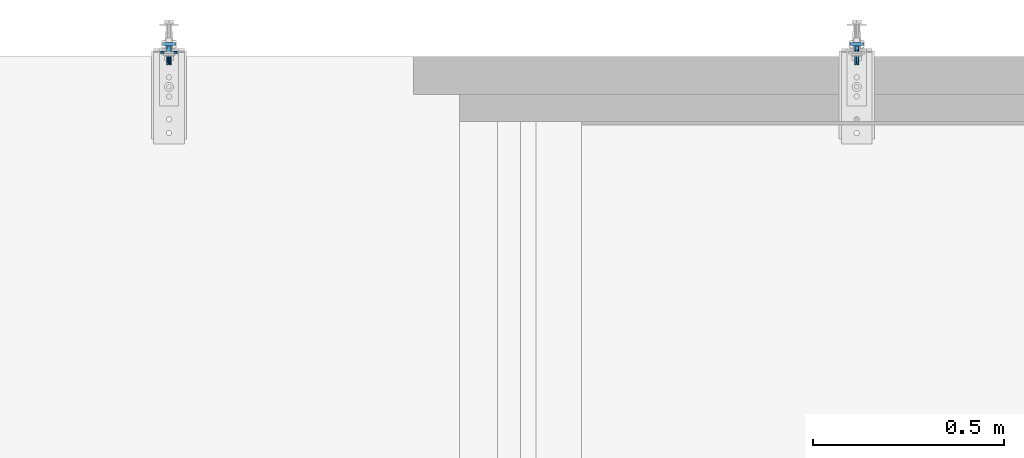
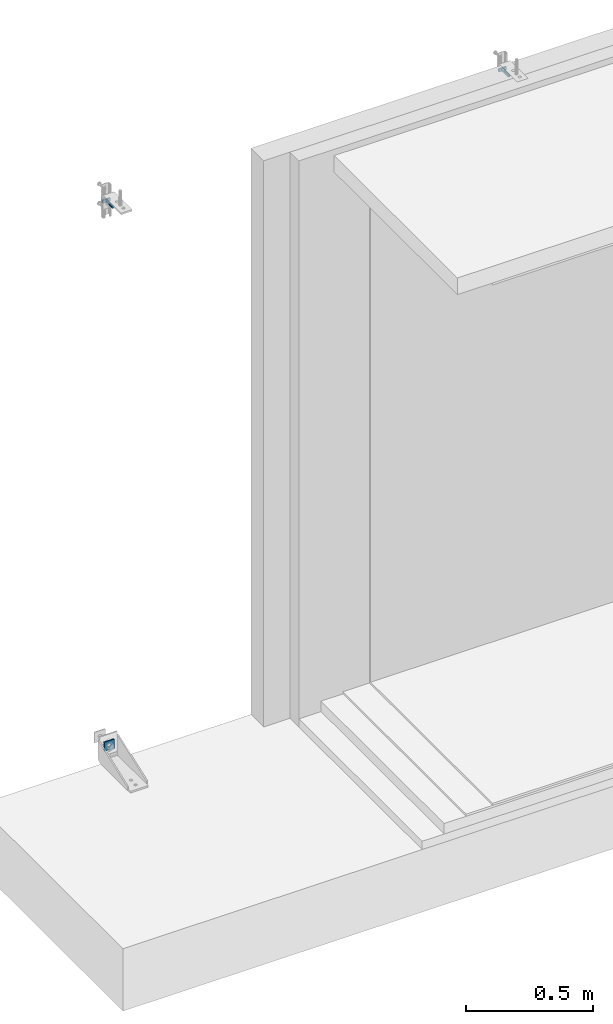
# One storey, part 5 of 7: 3 assemblies.
"""IFC2X3 building model written with IfcOpenShell, lengths in metres."""

from ifc_helpers import new_model, entity, si_unit, converted_unit, derived_unit, direction, frame, origin, place, context, subcontext, project, spatial, faceted_brep, source, transform, mapped, material, type_object, type_shapes, element, save


model = new_model("IFC2X3")

# Units and contexts
model_context = context("Model", 3, precision=1e-05, world=origin(), true_north=direction((6.123031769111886e-17, 1.0)))
body_context = subcontext(model_context, "Body", "Model", "MODEL_VIEW")
ifc_project = project(units=[si_unit("LENGTHUNIT", "METRE"), si_unit("AREAUNIT", "SQUARE_METRE"), converted_unit("PLANEANGLEUNIT", "DEGREE", entity("IfcPlaneAngleMeasure", 0.017453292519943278), si_unit("PLANEANGLEUNIT", "RADIAN"), dimensions=[0, 0, 0, 0, 0, 0, 0]), si_unit("VOLUMEUNIT", "CUBIC_METRE"), derived_unit("THERMALTRANSMITTANCEUNIT", [(si_unit("MASSUNIT", "GRAM", prefix="KILO"), 1), (si_unit("THERMODYNAMICTEMPERATUREUNIT", "KELVIN"), -1), (si_unit("TIMEUNIT", "SECOND"), -3)]), derived_unit("USERDEFINED", [(si_unit("MASSUNIT", "GRAM", prefix="KILO"), 1), (si_unit("THERMODYNAMICTEMPERATUREUNIT", "KELVIN"), -1), (si_unit("TIMEUNIT", "SECOND"), -2)]), derived_unit("THERMALRESISTANCEUNIT", [(si_unit("MASSUNIT", "GRAM", prefix="KILO"), -1), (si_unit("TIMEUNIT", "SECOND"), 3), (si_unit("THERMODYNAMICTEMPERATUREUNIT", "KELVIN"), 1)]), derived_unit("MASSDENSITYUNIT", [(si_unit("MASSUNIT", "GRAM", prefix="KILO"), 1), (si_unit("LENGTHUNIT", "METRE"), -3)]), derived_unit("VAPORPERMEABILITYUNIT", [(si_unit("LENGTHUNIT", "METRE"), -1), (si_unit("TIMEUNIT", "SECOND"), 1)]), derived_unit("USERDEFINED", [(si_unit("MASSUNIT", "GRAM", prefix="KILO"), 1), (si_unit("TIMEUNIT", "SECOND"), -3), (si_unit("LENGTHUNIT", "METRE"), 3), (si_unit("ELECTRICCURRENTUNIT", "AMPERE"), -2)]), si_unit("PRESSUREUNIT", "PASCAL")], contexts=[model_context])

# Site, building, storey
site_placement = place(None, origin())
site = spatial("IfcSite", under=ifc_project, at=site_placement, Name="Default", CompositionType="ELEMENT")
building_placement = place(site_placement, origin())
building = spatial("IfcBuilding", under=site, at=building_placement, CompositionType="ELEMENT")
storey_placement = place(building_placement, origin())
storey = spatial("IfcBuildingStorey", under=building, at=storey_placement, Name="L0", CompositionType="ELEMENT", Elevation=0.0)

# Assemblies
ifc_material = material(Name="REC_Acero, S 275JR (Zincado)")
type_product_1 = type_object("IfcTypeProduct", Name="REC-TPH1250:TPH1250", material=ifc_material)
shared_shape_1 = source(origin(), body_context, "Body", "Brep", [
    faceted_brep([(-0.005512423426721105, 0.006999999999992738, 0.04999470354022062), (-0.005512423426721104, 0.006999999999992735, 0.050994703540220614), (-0.017500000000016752, 0.006999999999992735, 0.050994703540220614), (-0.017500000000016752, 0.006999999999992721, 0.05849470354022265), (0.01750000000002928, 0.006999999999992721, 0.05849470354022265), (0.01750000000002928, 0.006999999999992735, 0.0509947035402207), (0.00551242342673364, 0.006999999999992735, 0.0509947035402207), (0.00551242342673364, 0.006999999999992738, 0.04999470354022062), (-0.005512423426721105, -0.007000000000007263, 0.04999470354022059), (0.00551242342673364, -0.007000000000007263, 0.04999470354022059), (0.00551242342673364, -0.007000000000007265, 0.05099470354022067), (0.01750000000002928, -0.007000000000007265, 0.05099470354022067), (0.01750000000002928, -0.007000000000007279, 0.058494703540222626), (-0.017500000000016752, -0.007000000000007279, 0.058494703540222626), (-0.017500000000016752, -0.007000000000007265, 0.050994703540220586), (-0.005512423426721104, -0.007000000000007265, 0.050994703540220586)], [[[0, 1, 2, 3, 4, 5, 6, 7]], [[8, 9, 10, 11, 12, 13, 14, 15]], [[1, 0, 8, 15]], [[3, 2, 14, 13]], [[4, 3, 13, 12]], [[5, 4, 12, 11]], [[6, 5, 11, 10]], [[7, 6, 10, 9]], [[0, 7, 9, 8]], [[2, 1, 15, 14]]]),
    faceted_brep([(0.002796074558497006, -0.002860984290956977, 0.0489420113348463), (-3.2352566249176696e-05, -0.004032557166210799, 0.0489420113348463), (-0.0028607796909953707, -0.002860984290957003, 0.0489420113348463), (-0.004032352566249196, -3.255716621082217e-05, 0.048942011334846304), (-0.0028607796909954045, 0.0027958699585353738, 0.048942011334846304), (-3.235256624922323e-05, 0.0039674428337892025, 0.04894201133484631), (0.0027960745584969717, 0.0027958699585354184, 0.048942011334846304), (0.00396764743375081, -3.2557166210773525e-05, 0.048942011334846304), (0.002796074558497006, -0.002860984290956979, 0.0499947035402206), (0.00396764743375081, -3.255716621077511e-05, 0.04999470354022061), (0.0027960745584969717, 0.0027958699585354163, 0.04999470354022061), (-3.235256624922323e-05, 0.0039674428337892, 0.04999470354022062), (-0.0028607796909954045, 0.0027958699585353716, 0.04999470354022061), (-0.004032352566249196, -3.2557166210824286e-05, 0.04999470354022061), (-0.0028607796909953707, -0.002860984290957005, 0.0499947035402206), (-3.2352566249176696e-05, -0.0040325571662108, 0.0499947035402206)], [[[0, 1, 2, 3, 4, 5, 6, 7]], [[8, 9, 10, 11, 12, 13, 14, 15]], [[1, 0, 8, 15]], [[2, 1, 15, 14]], [[3, 2, 14, 13]], [[4, 3, 13, 12]], [[5, 4, 12, 11]], [[6, 5, 11, 10]], [[7, 6, 10, 9]], [[0, 7, 9, 8]]]),
    faceted_brep([(0.004541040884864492, -0.00392160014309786, 0.0), (0.0008991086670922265, -0.005932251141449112, 0.0), (0.0008991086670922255, 0.00593225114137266, 0.0), (0.004555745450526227, 0.0039045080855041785, 0.0), (0.005999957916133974, -2.2472309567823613e-05, 0.0), (-0.0008991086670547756, -0.005932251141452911, 0.0), (-0.004556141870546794, -0.00390404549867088, 0.0), (-0.005999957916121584, 2.2472309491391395e-05, 0.0), (-0.004541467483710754, 0.0039211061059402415, 0.0), (-0.0008991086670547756, 0.005932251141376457, 0.0), (2.2472309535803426e-05, 0.0059999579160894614, 0.04894201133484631), (-0.0015311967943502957, 0.005801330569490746, 0.04894201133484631), (-0.002980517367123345, 0.005207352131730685, 0.04894201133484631), (-0.004226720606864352, 0.004258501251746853, 0.04894201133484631), (-0.005184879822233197, 0.0030194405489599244, 0.04894201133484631), (-0.005789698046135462, 0.0015746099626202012, 0.048942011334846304), (-0.005999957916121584, 2.247230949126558e-05, 0.048942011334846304), (-0.005801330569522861, -0.0015311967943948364, 0.048942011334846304), (-0.005207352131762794, -0.0029805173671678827, 0.0489420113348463), (-0.004258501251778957, -0.004226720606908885, 0.0489420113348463), (-0.003019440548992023, -0.005184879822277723, 0.0489420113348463), (-0.001574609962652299, -0.005789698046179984, 0.0489420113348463), (-2.2472309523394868e-05, -0.005999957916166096, 0.0489420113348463), (0.0015311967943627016, -0.005801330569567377, 0.0489420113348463), (0.002980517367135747, -0.005207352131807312, 0.0489420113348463), (0.0042267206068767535, -0.004258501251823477, 0.0489420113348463), (0.005184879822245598, -0.0030194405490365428, 0.0489420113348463), (0.005789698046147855, -0.0015746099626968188, 0.048942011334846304), (0.005999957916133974, -2.2472309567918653e-05, 0.048942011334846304), (0.005801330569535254, 0.0015311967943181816, 0.048942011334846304), (0.005207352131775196, 0.002980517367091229, 0.04894201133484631), (0.004258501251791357, 0.004226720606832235, 0.04894201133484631), (0.0030194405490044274, 0.005184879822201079, 0.04894201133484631), (0.0015746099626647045, 0.005789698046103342, 0.04894201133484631), (0.0008991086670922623, -0.005932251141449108, 0.0014985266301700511), (0.0, -0.0060000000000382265, 0.0014985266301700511), (-0.000899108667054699, -0.005932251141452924, 0.0014985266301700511), (-0.0008991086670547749, 0.005932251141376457, 0.001498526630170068), (0.0, 0.00599999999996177, 0.001498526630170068), (0.0008991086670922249, 0.005932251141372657, 0.001498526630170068)], [[[0, 1, 2, 3, 4]], [[5, 6, 7, 8, 9]], [[10, 11, 12, 13, 14, 15, 16, 17, 18, 19, 20, 21, 22, 23, 24, 25, 26, 27, 28, 29, 30, 31, 32, 33]], [[4, 28, 27]], [[0, 26, 25]], [[27, 26, 0]], [[25, 24, 34]], [[27, 0, 4]], [[24, 23, 34]], [[25, 34, 0]], [[34, 1, 0]], [[22, 35, 34]], [[34, 23, 22]], [[36, 22, 21]], [[36, 20, 19]], [[21, 20, 36]], [[19, 18, 6]], [[5, 36, 6]], [[36, 19, 6]], [[17, 16, 7]], [[17, 7, 6]], [[18, 17, 6]], [[36, 35, 22]], [[7, 16, 15]], [[8, 14, 13]], [[15, 14, 8]], [[13, 12, 37]], [[15, 8, 7]], [[12, 11, 37]], [[13, 37, 8]], [[37, 9, 8]], [[10, 38, 37]], [[37, 11, 10]], [[39, 10, 33]], [[39, 32, 31]], [[33, 32, 39]], [[31, 30, 3]], [[2, 39, 3]], [[39, 31, 3]], [[29, 28, 4]], [[29, 4, 3]], [[30, 29, 3]], [[39, 38, 10]], [[36, 5, 9, 37]], [[34, 35, 36, 37, 38, 39]], [[34, 39, 2, 1]]]),
])
type_shapes(type_product_1, [shared_shape_1])
assembly_1_placement = place(storey_placement, frame((5.487720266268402, 15.9115355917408, 2.674999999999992), z_axis=(0.0, 1.0, 0.0), x_axis=(-1.0, 0.0, 0.0)))
element("IfcElementAssembly", 1, at=assembly_1_placement, inside=storey, type_object=type_product_1, material=ifc_material, Name="REC-TPH1250:TPH1250", ObjectType="REC-TPH1250:TPH1250", AssemblyPlace="NOTDEFINED", PredefinedType="NOTDEFINED", context=body_context, shape_type="MappedRepresentation", body=[
    mapped(shared_shape_1, transform((0.0, 0.0, 0.0), scale=1.0)),
])
type_product_2 = type_object("IfcTypeProduct", Name="REC-TPH1250:TPH1250", material=ifc_material)
shared_shape_2 = source(origin(), body_context, "Body", "Brep", [
    faceted_brep([(-0.005512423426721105, -0.006999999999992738, 0.04999470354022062), (0.00551242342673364, -0.006999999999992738, 0.04999470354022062), (0.00551242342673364, -0.006999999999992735, 0.0509947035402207), (0.01750000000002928, -0.006999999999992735, 0.0509947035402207), (0.01750000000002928, -0.006999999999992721, 0.05849470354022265), (-0.017500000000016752, -0.006999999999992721, 0.05849470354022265), (-0.017500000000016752, -0.006999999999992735, 0.050994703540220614), (-0.005512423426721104, -0.006999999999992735, 0.050994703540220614), (-0.005512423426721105, 0.007000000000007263, 0.04999470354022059), (-0.005512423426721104, 0.007000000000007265, 0.050994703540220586), (-0.017500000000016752, 0.007000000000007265, 0.050994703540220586), (-0.017500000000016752, 0.007000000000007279, 0.058494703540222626), (0.01750000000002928, 0.007000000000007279, 0.058494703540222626), (0.01750000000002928, 0.007000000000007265, 0.05099470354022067), (0.00551242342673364, 0.007000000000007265, 0.05099470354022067), (0.00551242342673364, 0.007000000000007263, 0.04999470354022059)], [[[0, 1, 2, 3, 4, 5, 6, 7]], [[8, 9, 10, 11, 12, 13, 14, 15]], [[7, 9, 8, 0]], [[5, 11, 10, 6]], [[4, 12, 11, 5]], [[3, 13, 12, 4]], [[2, 14, 13, 3]], [[1, 15, 14, 2]], [[0, 8, 15, 1]], [[6, 10, 9, 7]]]),
    faceted_brep([(0.002796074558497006, 0.002860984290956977, 0.0489420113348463), (0.00396764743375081, 3.2557166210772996e-05, 0.048942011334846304), (0.0027960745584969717, -0.0027958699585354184, 0.048942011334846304), (-3.235256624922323e-05, -0.0039674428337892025, 0.04894201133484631), (-0.0028607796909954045, -0.0027958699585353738, 0.048942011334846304), (-0.004032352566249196, 3.255716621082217e-05, 0.048942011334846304), (-0.0028607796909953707, 0.002860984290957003, 0.0489420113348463), (-3.2352566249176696e-05, 0.004032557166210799, 0.0489420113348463), (0.002796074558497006, 0.002860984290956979, 0.0499947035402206), (-3.2352566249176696e-05, 0.0040325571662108, 0.0499947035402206), (-0.0028607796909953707, 0.002860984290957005, 0.0499947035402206), (-0.004032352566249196, 3.2557166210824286e-05, 0.04999470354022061), (-0.0028607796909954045, -0.0027958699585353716, 0.04999470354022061), (-3.235256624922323e-05, -0.0039674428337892, 0.04999470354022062), (0.0027960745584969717, -0.0027958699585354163, 0.04999470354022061), (0.00396764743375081, 3.255716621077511e-05, 0.04999470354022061)], [[[0, 1, 2, 3, 4, 5, 6, 7]], [[8, 9, 10, 11, 12, 13, 14, 15]], [[7, 9, 8, 0]], [[6, 10, 9, 7]], [[5, 11, 10, 6]], [[4, 12, 11, 5]], [[3, 13, 12, 4]], [[2, 14, 13, 3]], [[1, 15, 14, 2]], [[0, 8, 15, 1]]]),
    faceted_brep([(0.0008991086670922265, -0.00593225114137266, 0.0), (0.0008991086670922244, 0.005932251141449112, 0.0), (0.004541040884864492, 0.00392160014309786, 0.0), (0.005999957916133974, 2.2472309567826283e-05, 0.0), (0.004555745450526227, -0.0039045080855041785, 0.0), (-0.0008991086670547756, -0.005932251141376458, 0.0), (-0.004541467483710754, -0.0039211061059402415, 0.0), (-0.005999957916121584, -2.2472309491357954e-05, 0.0), (-0.004556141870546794, 0.00390404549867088, 0.0), (-0.0008991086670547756, 0.005932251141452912, 0.0), (-0.002980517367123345, -0.005207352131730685, 0.04894201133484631), (-0.0015311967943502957, -0.005801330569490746, 0.04894201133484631), (2.2472309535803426e-05, -0.0059999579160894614, 0.04894201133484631), (0.0015746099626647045, -0.005789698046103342, 0.04894201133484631), (0.0030194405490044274, -0.005184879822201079, 0.04894201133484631), (0.004258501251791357, -0.004226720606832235, 0.04894201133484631), (0.005207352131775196, -0.002980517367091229, 0.04894201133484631), (0.005801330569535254, -0.0015311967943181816, 0.048942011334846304), (0.005999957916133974, 2.2472309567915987e-05, 0.048942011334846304), (0.005789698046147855, 0.0015746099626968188, 0.048942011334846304), (0.005184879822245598, 0.0030194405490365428, 0.0489420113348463), (0.0042267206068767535, 0.004258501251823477, 0.0489420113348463), (0.002980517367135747, 0.005207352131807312, 0.0489420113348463), (0.0015311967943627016, 0.005801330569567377, 0.0489420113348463), (-2.2472309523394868e-05, 0.005999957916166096, 0.0489420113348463), (-0.001574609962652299, 0.005789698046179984, 0.0489420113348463), (-0.003019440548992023, 0.005184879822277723, 0.0489420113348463), (-0.004258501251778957, 0.004226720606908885, 0.0489420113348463), (-0.005207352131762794, 0.0029805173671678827, 0.0489420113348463), (-0.005801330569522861, 0.0015311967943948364, 0.048942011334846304), (-0.005999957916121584, -2.247230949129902e-05, 0.048942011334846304), (-0.005789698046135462, -0.0015746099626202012, 0.048942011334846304), (-0.005184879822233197, -0.0030194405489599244, 0.04894201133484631), (-0.004226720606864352, -0.004258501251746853, 0.04894201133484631), (0.0008991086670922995, 0.005932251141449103, 0.0014985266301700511), (0.0, 0.0060000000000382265, 0.0014985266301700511), (-0.0008991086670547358, 0.005932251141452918, 0.0014985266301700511), (-0.0008991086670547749, -0.005932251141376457, 0.001498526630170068), (0.0, -0.00599999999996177, 0.001498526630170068), (0.0008991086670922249, -0.005932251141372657, 0.001498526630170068)], [[[0, 1, 2, 3, 4]], [[5, 6, 7, 8, 9]], [[10, 11, 12, 13, 14, 15, 16, 17, 18, 19, 20, 21, 22, 23, 24, 25, 26, 27, 28, 29, 30, 31, 32, 33]], [[19, 18, 3]], [[21, 20, 2]], [[2, 20, 19]], [[34, 22, 21]], [[3, 2, 19]], [[34, 23, 22]], [[2, 34, 21]], [[2, 1, 34]], [[34, 35, 24]], [[24, 23, 34]], [[25, 24, 36]], [[27, 26, 36]], [[36, 26, 25]], [[8, 28, 27]], [[8, 36, 9]], [[8, 27, 36]], [[7, 30, 29]], [[8, 7, 29]], [[8, 29, 28]], [[24, 35, 36]], [[31, 30, 7]], [[33, 32, 6]], [[6, 32, 31]], [[37, 10, 33]], [[7, 6, 31]], [[37, 11, 10]], [[6, 37, 33]], [[6, 5, 37]], [[37, 38, 12]], [[12, 11, 37]], [[13, 12, 39]], [[15, 14, 39]], [[39, 14, 13]], [[4, 16, 15]], [[4, 39, 0]], [[4, 15, 39]], [[3, 18, 17]], [[4, 3, 17]], [[4, 17, 16]], [[12, 38, 39]], [[37, 5, 9, 36]], [[39, 38, 37, 36, 35, 34]], [[0, 39, 34, 1]]]),
])
type_shapes(type_product_2, [shared_shape_2])
assembly_2_placement = place(storey_placement, frame((7.287720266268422, 15.911535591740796, 2.6750000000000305), z_axis=(0.0, 1.0, 0.0), x_axis=(1.0, 0.0, 0.0)))
element("IfcElementAssembly", 2, at=assembly_2_placement, inside=storey, type_object=type_product_2, material=ifc_material, Name="REC-TPH1250:TPH1250", ObjectType="REC-TPH1250:TPH1250", AssemblyPlace="NOTDEFINED", PredefinedType="NOTDEFINED", context=body_context, shape_type="MappedRepresentation", body=[
    mapped(shared_shape_2, transform((0.0, 0.0, 0.0), scale=1.0)),
])
type_product_3 = type_object("IfcTypeProduct", Name="REC-CPA448T17:CPA448T17", material=ifc_material)
shared_shape_3 = source(origin(), body_context, "Body", "Brep", [
    faceted_brep([(-0.006833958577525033, -0.0050544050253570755, 0.0010544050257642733), (-0.006020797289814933, -0.0059999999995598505, 0.001999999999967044), (-0.022000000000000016, -0.0059999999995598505, 0.001999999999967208), (-0.022000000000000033, -0.003999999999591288, 0.0), (-0.007500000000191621, -0.003999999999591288, 0.0), (0.02199999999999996, -0.003999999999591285, 0.0), (0.02199999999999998, -0.0059999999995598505, 0.0019999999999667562), (0.006020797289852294, -0.005999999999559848, 0.001999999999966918), (0.00683395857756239, -0.005054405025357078, 0.0010544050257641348), (0.007500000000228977, -0.003999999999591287, 0.0), (-0.0045576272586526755, -0.007174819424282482, 0.0008251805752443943), (-0.002872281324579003, -0.007999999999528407, 0.0), (-0.022000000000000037, -0.007999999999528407, 0.0), (0.02199999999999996, -0.007999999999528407, 0.0), (0.0028722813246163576, -0.00799999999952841, 0.0), (0.004557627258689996, -0.007174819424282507, 0.0008251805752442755), (-0.008440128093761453, -0.0010070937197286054, 0.0010070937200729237), (-0.008261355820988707, -0.001999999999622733, 0.001999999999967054), (-0.022000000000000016, -0.001999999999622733, 0.0019999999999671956), (-0.022000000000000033, 0.0, 0.0), (-0.008499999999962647, 0.0, 0.0), (0.02199999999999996, 0.0, 0.0), (0.02199999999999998, -0.001999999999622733, 0.0019999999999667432), (0.008261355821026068, -0.0019999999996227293, 0.001999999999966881), (0.00844012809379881, -0.0010070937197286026, 0.0010070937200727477), (0.008500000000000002, 0.0, 0.0), (-0.007499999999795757, 0.004000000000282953, 0.0), (-0.007943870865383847, 0.003024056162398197, 0.0009759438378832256), (-0.008261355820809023, 0.002000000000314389, 0.0019999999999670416), (-0.022000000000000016, 0.002000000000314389, 0.001999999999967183), (-0.022000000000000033, 0.0040000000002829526, 0.0), (0.02199999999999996, 0.004000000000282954, 0.0), (0.02199999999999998, 0.002000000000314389, 0.0019999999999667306), (0.00826135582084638, 0.002000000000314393, 0.0019999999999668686), (0.007943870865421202, 0.003024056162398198, 0.0009759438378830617), (0.007499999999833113, 0.0040000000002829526, 0.0), (-0.008440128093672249, 0.001007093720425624, 0.0010070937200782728), (0.008440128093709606, 0.001007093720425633, 0.0010070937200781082), (-0.007943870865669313, -0.0030240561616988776, 0.0009759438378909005), (0.00794387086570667, -0.0030240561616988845, 0.0009759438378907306), (-0.0028722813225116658, 0.008000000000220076, 0.0), (-0.004557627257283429, 0.007174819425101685, 0.0008251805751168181), (-0.006020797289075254, 0.006000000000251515, 0.001999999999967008), (-0.022000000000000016, 0.006000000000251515, 0.001999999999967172), (-0.022000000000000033, 0.008000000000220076, 0.0), (0.02199999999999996, 0.008000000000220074, 0.0), (0.02199999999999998, 0.006000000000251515, 0.0019999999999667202), (0.006020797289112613, 0.006000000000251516, 0.001999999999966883), (0.0045576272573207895, 0.007174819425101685, 0.0008251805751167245), (0.0028722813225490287, 0.008000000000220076, 0.0), (-0.006833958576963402, 0.005054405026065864, 0.0010544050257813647), (0.0068339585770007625, 0.005054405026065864, 0.0010544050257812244), (0.02199999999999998, -0.009999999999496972, 0.0019999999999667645), (0.02199999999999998, 0.010000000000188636, 0.0019999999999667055), (0.02199999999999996, 0.012000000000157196, 0.0), (0.02199999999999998, 0.014000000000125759, 0.0019999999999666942), (0.02199999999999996, 0.01600000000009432, 0.0), (0.02199999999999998, 0.018000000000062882, 0.001999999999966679), (0.02199999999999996, 0.02000000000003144, 0.0), (0.02199999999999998, 0.022000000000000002, 0.0019999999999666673), (0.022000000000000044, 0.022000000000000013, 0.007999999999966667), (0.022000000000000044, -0.022000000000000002, 0.007999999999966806), (0.02199999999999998, -0.022000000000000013, 0.002000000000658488), (0.02199999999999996, -0.019999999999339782, 0.0), (0.02199999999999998, -0.017999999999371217, 0.0019999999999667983), (0.02199999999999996, -0.015999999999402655, 0.0), (0.02199999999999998, -0.013999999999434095, 0.0019999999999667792), (0.02199999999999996, -0.01199999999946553, 0.0), (-0.022000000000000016, 0.018000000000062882, 0.0019999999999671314), (-0.022000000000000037, 0.01600000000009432, 0.0), (-0.022000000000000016, 0.014000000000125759, 0.001999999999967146), (-0.022000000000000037, 0.012000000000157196, 0.0), (-0.022000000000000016, 0.010000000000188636, 0.0019999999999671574), (-0.022000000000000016, -0.009999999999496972, 0.001999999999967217), (-0.022000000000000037, -0.01199999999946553, 0.0), (-0.022000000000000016, -0.013999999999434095, 0.0019999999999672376), (-0.022000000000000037, -0.015999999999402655, 0.0), (-0.022000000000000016, -0.017999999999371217, 0.0019999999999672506), (-0.022000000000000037, -0.019999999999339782, 0.0), (-0.022000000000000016, -0.022000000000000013, 0.0020000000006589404), (-0.021999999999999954, -0.022000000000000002, 0.007999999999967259), (-0.021999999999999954, 0.022000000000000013, 0.00799999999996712), (-0.022000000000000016, 0.022000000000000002, 0.0019999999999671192), (-0.022000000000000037, 0.02000000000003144, 0.0), (0.0073612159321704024, 0.004249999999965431, 0.007999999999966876), (0.00821036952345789, 0.002199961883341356, 0.007999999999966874), (0.006010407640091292, 0.00601040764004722, 0.007999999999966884), (0.008500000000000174, 0.0, 0.007999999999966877), (0.0042500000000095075, 0.007361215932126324, 0.007999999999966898), (0.0021999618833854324, 0.00821036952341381, 0.007999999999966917), (0.0, 0.00849999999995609, 0.007999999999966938), (-0.002199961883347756, 0.008210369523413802, 0.00799999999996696), (-0.004249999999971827, 0.007361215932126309, 0.007999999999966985), (-0.006010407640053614, 0.006010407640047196, 0.007999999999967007), (-0.007361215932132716, 0.004249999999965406, 0.007999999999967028), (-0.008210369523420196, 0.002199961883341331, 0.007999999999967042), (-0.008499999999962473, 0.0, 0.007999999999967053), (-0.008210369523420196, -0.0021999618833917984, 0.007999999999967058), (-0.00736121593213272, -0.004250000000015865, 0.007999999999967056), (-0.0060104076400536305, -0.006010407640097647, 0.007999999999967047), (-0.004249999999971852, -0.007361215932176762, 0.007999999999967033), (-0.0021999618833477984, -0.00821036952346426, 0.007999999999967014), (0.0, -0.008500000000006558, 0.007999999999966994), (0.008210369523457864, -0.002199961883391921, 0.007999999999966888), (0.007361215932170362, -0.00425000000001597, 0.007999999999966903), (0.006010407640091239, -0.00601040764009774, 0.007999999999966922), (0.00425000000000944, -0.00736121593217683, 0.007999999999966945), (0.002199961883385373, -0.008210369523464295, 0.00799999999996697), (0.0, -0.008500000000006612, 0.0005000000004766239), (0.0, 0.008499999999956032, 0.000499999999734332), (-0.008499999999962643, 0.0, 0.001058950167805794), (-0.008499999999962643, 0.0, 0.004235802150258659), (0.008500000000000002, 0.0, 0.0042358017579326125), (0.008500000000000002, 0.0, 0.002117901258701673), (0.008500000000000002, 0.0, 0.0010589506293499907), (-0.008499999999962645, 0.0, 0.0021179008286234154)], [[[0, 1, 2, 3, 4]], [[5, 6, 7, 8, 9]], [[10, 11, 12, 2, 1]], [[6, 13, 14, 15, 7]], [[16, 17, 18, 19, 20]], [[21, 22, 23, 24, 25]], [[26, 27, 28, 29, 30]], [[31, 32, 33, 34, 35]], [[28, 36, 20, 19, 29]], [[32, 21, 25, 37, 33]], [[38, 4, 3, 18, 17]], [[22, 5, 9, 39, 23]], [[40, 41, 42, 43, 44]], [[45, 46, 47, 48, 49]], [[42, 50, 26, 30, 43]], [[46, 31, 35, 51, 47]], [[52, 13, 6, 5, 22, 21, 32, 31, 46, 45, 53, 54, 55, 56, 57, 58, 59, 60, 61, 62, 63, 64, 65, 66, 67]], [[68, 69, 70, 71, 72, 44, 43, 30, 29, 19, 18, 3, 2, 12, 73, 74, 75, 76, 77, 78, 79, 80, 81, 82, 83]], [[59, 58, 83, 82]], [[60, 59, 82, 81]], [[60, 84, 85]], [[84, 60, 86]], [[60, 85, 87]], [[88, 86, 60]], [[89, 88, 60]], [[90, 89, 60]], [[60, 81, 90]], [[87, 61, 60]], [[91, 90, 81]], [[92, 91, 81]], [[93, 92, 81]], [[81, 94, 93]], [[94, 81, 95]], [[96, 95, 81]], [[81, 80, 96]], [[97, 96, 80]], [[98, 97, 80]], [[80, 99, 98]], [[99, 80, 100]], [[101, 100, 80]], [[102, 101, 80]], [[102, 80, 61]], [[61, 87, 103]], [[61, 103, 104]], [[104, 105, 61]], [[105, 106, 61]], [[106, 107, 61]], [[61, 107, 102]], [[62, 61, 80, 79]], [[63, 62, 79, 78]], [[64, 63, 78, 77]], [[65, 64, 77, 76]], [[66, 65, 76, 75]], [[67, 66, 75, 74]], [[52, 67, 74, 73]], [[13, 52, 73, 12, 11, 108, 14]], [[53, 45, 49, 109, 40, 44, 72]], [[54, 53, 72, 71]], [[55, 54, 71, 70]], [[56, 55, 70, 69]], [[57, 56, 69, 68]], [[58, 57, 68, 83]], [[38, 0, 4]], [[110, 16, 20]], [[7, 1, 102]], [[17, 0, 38]], [[10, 1, 108]], [[0, 17, 1]], [[111, 97, 98]], [[100, 1, 111]], [[97, 111, 96]], [[17, 111, 1]], [[99, 100, 111]], [[111, 98, 99]], [[1, 100, 101]], [[101, 102, 1]], [[108, 11, 10]], [[15, 14, 108]], [[7, 15, 108]], [[23, 112, 113, 114]], [[114, 25, 24]], [[16, 110, 17]], [[23, 39, 8]], [[17, 110, 115, 111]], [[87, 112, 103]], [[8, 39, 9]], [[106, 105, 112]], [[7, 106, 112]], [[7, 107, 106]], [[7, 102, 107]], [[112, 104, 103]], [[24, 23, 114]], [[105, 104, 112]], [[23, 7, 112]], [[23, 8, 7]], [[108, 1, 7]], [[34, 51, 35]], [[114, 37, 25]], [[42, 47, 90]], [[33, 51, 34]], [[48, 47, 109]], [[51, 33, 47]], [[112, 85, 84]], [[88, 47, 112]], [[85, 112, 87]], [[33, 112, 47]], [[86, 88, 112]], [[112, 84, 86]], [[47, 88, 89]], [[89, 90, 47]], [[109, 49, 48]], [[41, 40, 109]], [[42, 41, 109]], [[33, 114, 113, 112]], [[37, 114, 33]], [[110, 20, 36]], [[28, 27, 50]], [[28, 111, 115, 110]], [[96, 111, 95]], [[50, 27, 26]], [[92, 93, 111]], [[42, 92, 111]], [[42, 91, 92]], [[42, 90, 91]], [[111, 94, 95]], [[36, 28, 110]], [[93, 94, 111]], [[28, 42, 111]], [[28, 50, 42]], [[109, 47, 42]]]),
])
type_shapes(type_product_3, [shared_shape_3])
assembly_3_placement = place(storey_placement, frame((5.487720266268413, 15.94790529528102, 0.07200000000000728), z_axis=(0.0, -1.0, 0.0), x_axis=(-1.0, 0.0, 0.0)))
element("IfcElementAssembly", 3, at=assembly_3_placement, inside=storey, type_object=type_product_3, material=ifc_material, Name="REC-CPA448T17:CPA448T17", ObjectType="REC-CPA448T17:CPA448T17", AssemblyPlace="NOTDEFINED", PredefinedType="NOTDEFINED", context=body_context, shape_type="MappedRepresentation", body=[
    mapped(shared_shape_3, transform((0.0, 0.0, 0.0), scale=1.0)),
])

save(model, "model.ifc")
